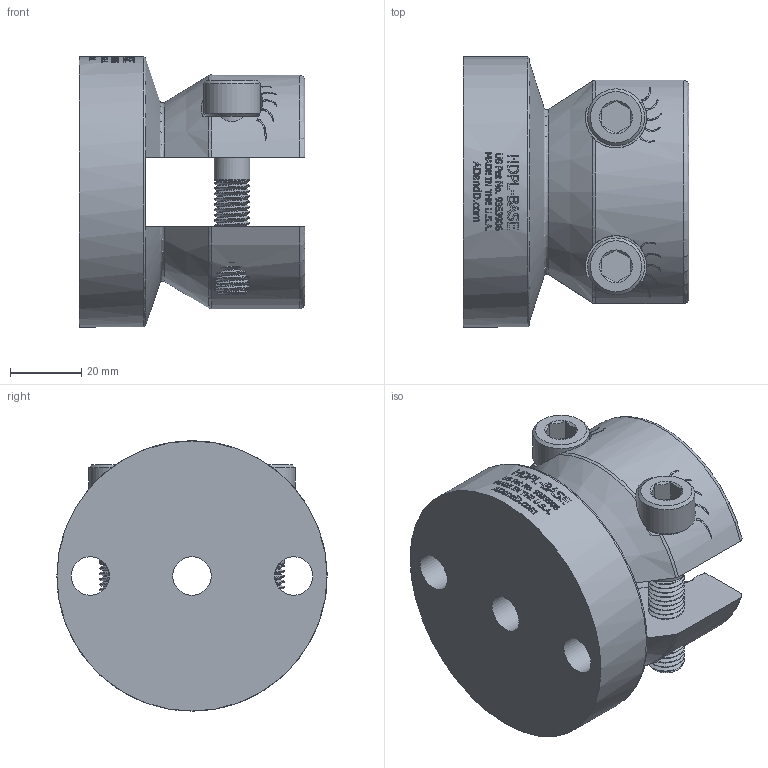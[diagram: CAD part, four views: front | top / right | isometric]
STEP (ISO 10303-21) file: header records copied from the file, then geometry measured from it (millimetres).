
FILE_DESCRIPTION(/* description */ (''),/* implementation_level */ '2;1');
FILE_NAME(/* name */ 'C:\Users\owner\Desktop\HDPL SERIES\HDPL-BASE.stp',/* time_stamp */ '2017-09-29T16:00:48-04:00',/* author */ ('owner'),/* organization */ (''),/* preprocessor_version */ 'ST-DEVELOPER v16.5',/* originating_system */ 'Autodesk Inventor 2017',/* authorisation */ '');
FILE_SCHEMA (('CONFIG_CONTROL_DESIGN'));
Products named in the file (3): PL-HDBASE; 60059; #91292
Assembly tree (3 placements, depth 2):
  PL-HDBASE
    60059
    #91292  x2
Bounding box: 63.5 x 75.95 x 75.95 mm (x, y, z)
Volume: 158648.2 mm3; surface area: 36294.5 mm2
Topology: 3 solids, 3 shells, 1022 faces, 2790 edges, 1849 vertices
Faces by surface type: plane 413, bspline 409, cylinder 149, cone 24, torus 21, sphere 6
Full cylindrical faces by diameter (mm): 8.382 x2, 10 x42, 10.795 x5, 16 x2, 17.247 x3, 75.946 x1
Entity records: 42949 total; most frequent: CARTESIAN_POINT 21039, ORIENTED_EDGE 5160, DIRECTION 3424, EDGE_CURVE 2580, VERTEX_POINT 1722, AXIS2_PLACEMENT_3D 1151, LINE 1122, VECTOR 1122
